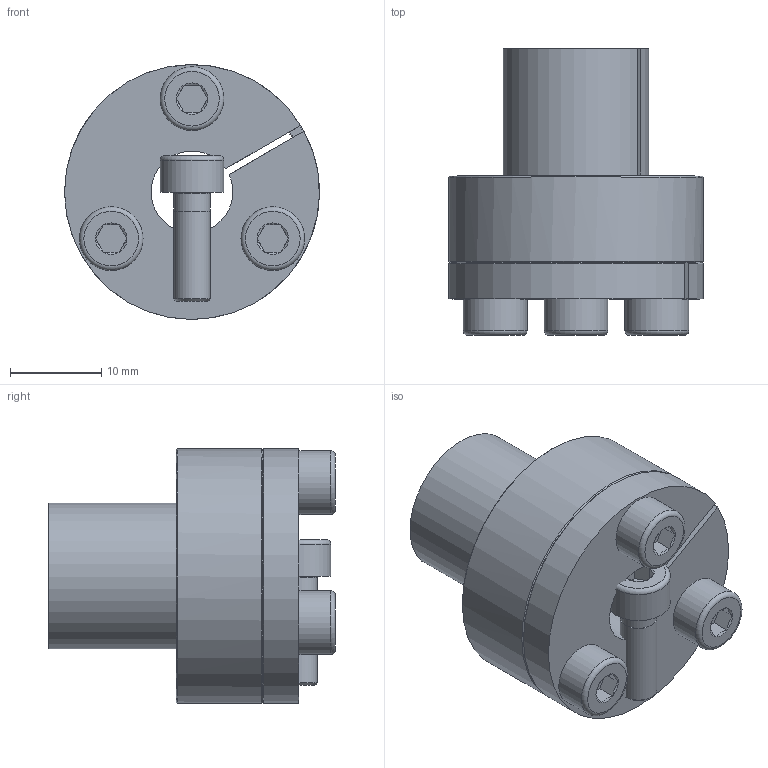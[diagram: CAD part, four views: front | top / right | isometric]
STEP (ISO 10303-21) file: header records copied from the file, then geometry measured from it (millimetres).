
FILE_DESCRIPTION( ( 'Unknown' ), '1' );
FILE_NAME( 'C:/Dokumente und Einstellungen/Sven/Desktop/homepage/cad - homepage/KBS80/KBS 80 - 9 x 16.stp', 'Unknown', ( 'Unknown' ), ( 'Unknown' ), 'XStep 1.0', 'Unknown', ' ' );
FILE_SCHEMA( ( 'automotive_design' ) );
Length unit declared in the file: millimetre
Products named in the file (5): Assem1; KBS 80 - 9 x 16; ISO EN DIN 4762 M4x12; ISO EN DIN 4762 M4x12-oa0; ISO EN DIN 4762 M4x12-oa1
Bounding box: 28 x 31.5 x 28 mm (x, y, z)
Volume: 19186 mm3; surface area: 11023.6 mm2
Topology: 8 solids, 8 shells, 196 faces, 384 edges, 226 vertices
Faces by surface type: plane 88, cone 56, cylinder 40, torus 12
Full cylindrical faces by diameter (mm): 3.5 x6, 4 x18, 7 x6, 28 x2
Entity records: 2648 total; most frequent: CARTESIAN_POINT 502, DIRECTION 412, ORIENTED_EDGE 312, AXIS2_PLACEMENT_3D 179, EDGE_CURVE 156, EDGE_LOOP 145, FACE_OUTER_BOUND 120, VERTEX_POINT 105
